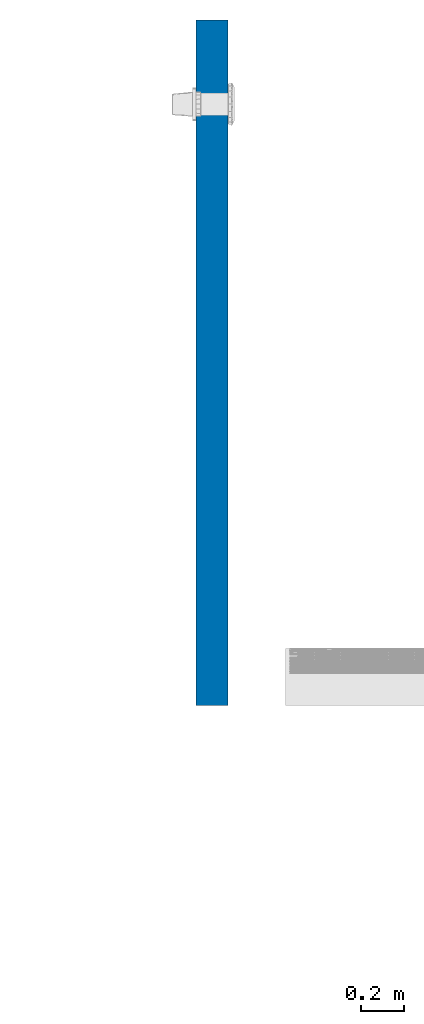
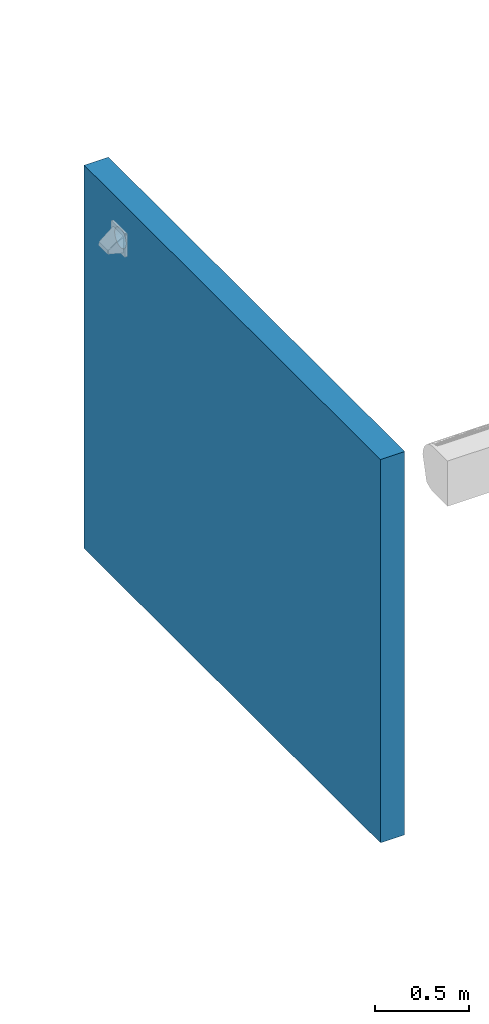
# One storey, part 1 of 60: 1 wall, 1 opening.
"""IFC2X3 building model written with IfcOpenShell, lengths in millimetres."""

from ifc_helpers import new_model, entity, si_unit, converted_unit, derived_unit, direction, frame, frame_2d, origin, origin_2d_with_axis, place, context, subcontext, project, spatial, rectangle, circle, extrude, material, layer, layer_set, layer_usage, type_object, element, save


model = new_model("IFC2X3")

# Units and contexts
model_context = context("Model", 3, precision=0.01, world=origin(), true_north=direction((6.123233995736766e-17, 1.0)))
body_context = subcontext(model_context, "Body", "Model", "MODEL_VIEW")
ifc_project = project(units=[si_unit("LENGTHUNIT", "METRE", prefix="MILLI"), converted_unit("PLANEANGLEUNIT", "DEGREE", entity("IfcPlaneAngleMeasure", 0.017453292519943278), si_unit("PLANEANGLEUNIT", "RADIAN"), dimensions=[0, 0, 0, 0, 0, 0, 0]), si_unit("AREAUNIT", "SQUARE_METRE"), derived_unit("THERMALTRANSMITTANCEUNIT", [(si_unit("MASSUNIT", "GRAM", prefix="KILO"), 1), (si_unit("THERMODYNAMICTEMPERATUREUNIT", "KELVIN"), -1), (si_unit("TIMEUNIT", "SECOND"), -3)])], contexts=[model_context])

# Site, building, storey
site_placement = place(None, origin())
site = spatial("IfcSite", under=ifc_project, at=site_placement, Name="Default", CompositionType="ELEMENT")
building_placement = place(site_placement, origin())
building = spatial("IfcBuilding", under=site, at=building_placement, Name="Praça Pedro II, 1301 - Centro (Sul), Teresina - PI, 64001-100", CompositionType="ELEMENT")
storey_placement = place(building_placement, frame((0.0, 0.0, 6040.0)))
storey = spatial("IfcBuildingStorey", under=building, at=storey_placement, Name="2PAV", CompositionType="ELEMENT", Elevation=6040.0)

# Wall, opening
ifc_material = material(Name="Tijolo, Comum")
ifc_layer = layer(ifc_material, 150.0)
ifc_layer_set = layer_set([ifc_layer], Name="Parede básica:Genérico - 150 mm Tijolo")
ifc_layer_usage = layer_usage(ifc_layer_set, "AXIS2", "POSITIVE", -75.0)
wall_type = type_object("IfcWallType", Name="Parede básica:Genérico - 150 mm Tijolo", PredefinedType="STANDARD", material=ifc_layer_set)
wall_placement = place(storey_placement, frame((32438.62107154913, -54340.941631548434, 0.0), z_axis=(0.0, 0.0, 1.0), x_axis=(0.0, 1.0, 0.0)))
wall = element("IfcWallStandardCase", 1, at=wall_placement, inside=storey, type_object=wall_type, material=ifc_layer_usage, Name="Parede básica:Genérico - 150 mm Tijolo", ObjectType="Parede básica:Genérico - 150 mm Tijolo", context=body_context, shape_type="SweptSolid", body=[
    extrude(rectangle(XDim=3166.0956779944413, YDim=150.00000000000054, at=frame_2d((1583.0478389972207, 0.0), x_axis=(-1.0, 0.0))), origin(), (0.0, 0.0, 1.0), 2499.999999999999),
])
opening_placement = place(wall_placement, origin())
element("IfcOpeningElement", 2, at=opening_placement, cuts=wall, Name="Parede básica:Genérico - 150 mm Tijolo", ObjectType="Opening", context=body_context, shape_type="SweptSolid", body=[
    extrude(circle(Radius=62.25110343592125, at=origin_2d_with_axis()), frame((2777.498994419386, -1449.0, 2262.251103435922), z_axis=(0.0, 1.0, 0.0), x_axis=(0.0, 0.0, -1.0)), (0.0, 0.0, 1.0), 3048.0),
])

save(model, "model.ifc")
